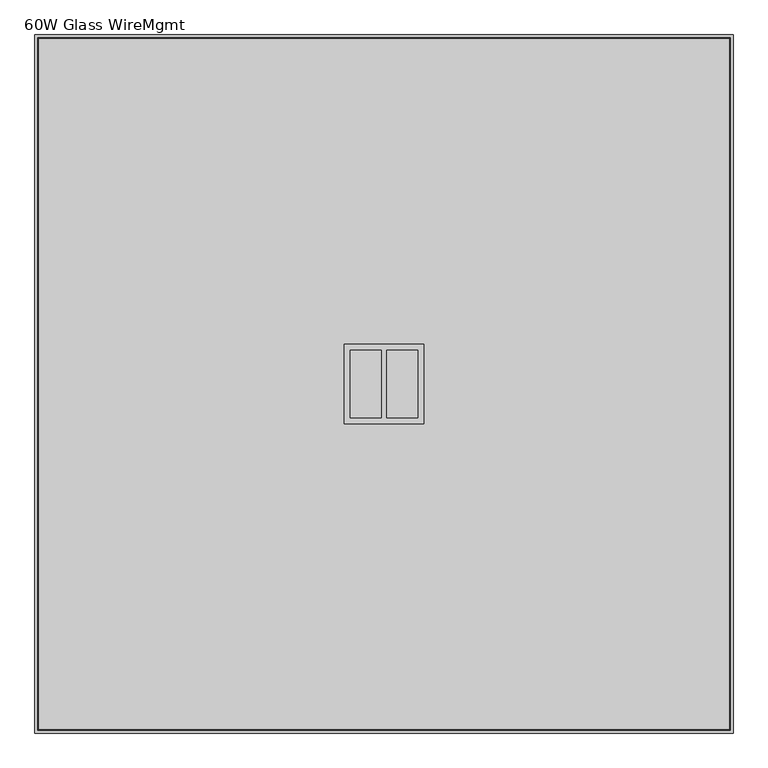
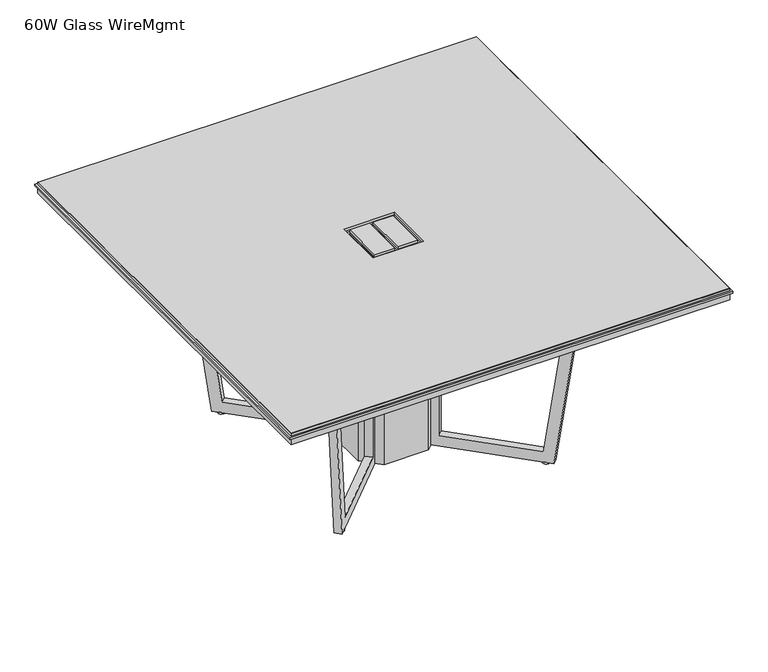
"""IFC4 building model written with IfcOpenShell, lengths in millimetres: furniture geometry, Knoll_Datesweiser_Tables_Meeting_Highline_Square : 60W Glass WireMgmt."""

from ifc_helpers import new_model, si_unit, point, frame, frame_2d, origin, origin_with_axes, place, context, project, spatial, polyline, circle_curve, trimmed, segment, composite_curve, outline, extrude, faceted_brep, source, transform, mapped, element, save


def furniture_60w_glass_wiremgmt_495b79e9(model_context):
    return source(origin(), model_context, "Body", "SolidModel", [
        extrude(outline(polyline([(762.0, 762.0), (762.0, -762.0), (-762.0, -762.0), (-762.0, 762.0), (762.0, 762.0)])), frame((0.0, 0.0, 698.5), z_axis=(0.0, 0.0, 1.0), x_axis=(1.0, 0.0, 0.0)), (0.0, 0.0, 1.0), 25.4),
        extrude(outline(polyline([(768.35, 768.35), (768.35, -768.35), (-768.35, -768.35), (-768.35, 768.35), (768.35, 768.35)]), holes=[polyline([(-87.3125, -87.3125), (87.3125, -87.3125), (87.3125, 87.3125), (-87.3125, 87.3125), (-87.3125, -87.3125)])]), frame((0.0, 0.0, 723.9), z_axis=(0.0, 0.0, 1.0), x_axis=(1.0, 0.0, 0.0)), (0.0, 0.0, 1.0), 6.35),
        extrude(outline(polyline([(6.35, -74.6125), (6.35, 74.6125), (74.6125, 74.6125), (74.6125, -74.6125), (6.35, -74.6125)])), frame((0.0, 0.0, 723.9), z_axis=(0.0, 0.0, 1.0), x_axis=(1.0, 0.0, 0.0)), (0.0, 0.0, 1.0), 6.35),
        extrude(outline(polyline([(-6.35, 74.6125), (-6.35, -74.6125), (-74.6125, -74.6125), (-74.6125, 74.6125), (-6.35, 74.6125)])), frame((0.0, 0.0, 723.9), z_axis=(0.0, 0.0, 1.0), x_axis=(1.0, 0.0, 0.0)), (0.0, 0.0, 1.0), 6.35),
        faceted_brep([(-762.0, 762.0, 738.759), (-762.0, 762.0, 731.266), (-762.0, -762.0, 731.266), (-762.0, -762.0, 738.759), (-760.984, -760.984, 739.775), (-760.984, 760.984, 739.775), (-760.984, 760.984, 730.25), (-760.984, -760.984, 730.25), (762.0, -762.0, 731.266), (762.0, -762.0, 738.759), (760.984, -760.984, 739.775), (760.984, -760.984, 730.25), (762.0, 762.0, 731.266), (762.0, 762.0, 738.759), (760.984, 760.984, 739.775), (760.984, 760.984, 730.25), (87.3125, -87.3125, 739.775), (-87.3125, -87.3125, 739.775), (-87.3125, 87.3125, 739.775), (87.3125, 87.3125, 739.775), (-87.3125, -87.3125, 730.25), (87.3125, -87.3125, 730.25), (87.3125, 87.3125, 730.25), (-87.3125, 87.3125, 730.25)], [[[0, 1, 2, 3]], [[0, 3, 4, 5]], [[2, 1, 6, 7]], [[3, 2, 8, 9]], [[4, 3, 9, 10]], [[2, 7, 11, 8]], [[9, 8, 12, 13]], [[10, 9, 13, 14]], [[8, 11, 15, 12]], [[1, 0, 13, 12]], [[0, 5, 14, 13]], [[6, 1, 12, 15]], [[5, 4, 10, 14], [16, 17, 18, 19]], [[7, 6, 15, 11], [20, 21, 22, 23]], [[16, 21, 20, 17]], [[17, 20, 23, 18]], [[18, 23, 22, 19]], [[21, 16, 19, 22]]]),
        faceted_brep([(6.35, 74.6125, 739.775), (6.35, -74.6125, 739.775), (74.6125, -74.6125, 739.775), (74.6125, 74.6125, 739.775), (6.35, -74.6125, 730.25), (6.35, 74.6125, 730.25), (74.6125, 74.6125, 730.25), (74.6125, -74.6125, 730.25)], [[[0, 1, 2, 3]], [[4, 5, 6, 7]], [[0, 5, 4, 1]], [[1, 4, 7, 2]], [[2, 7, 6, 3]], [[5, 0, 3, 6]]]),
        faceted_brep([(-6.35, -74.6125, 739.775), (-6.35, 74.6125, 739.775), (-74.6125, 74.6125, 739.775), (-74.6125, -74.6125, 739.775), (-6.35, 74.6125, 730.25), (-6.35, -74.6125, 730.25), (-74.6125, -74.6125, 730.25), (-74.6125, 74.6125, 730.25)], [[[0, 1, 2, 3]], [[4, 5, 6, 7]], [[0, 5, 4, 1]], [[1, 4, 7, 2]], [[2, 7, 6, 3]], [[5, 0, 3, 6]]]),
        extrude(outline(composite_curve([segment(trimmed(circle_curve(frame_2d((-357.9481367, -357.9481367)), 12.7), [point((-345.2481367, -357.9481367))], [point((-370.6481367, -357.9481367))], False, "CARTESIAN"), True, "CONTINUOUS"), segment(trimmed(circle_curve(frame_2d((-357.9481367, -357.9481367)), 12.7), [point((-370.6481367, -357.9481367))], [point((-345.2481367, -357.9481367))], False, "CARTESIAN"), True, "CONTINUOUS")], self_intersect=False)), origin_with_axes(), (0.0, 0.0, 1.0), 5.9867797),
        extrude(outline(composite_curve([segment(trimmed(circle_curve(frame_2d((-357.9481367, 357.9481367)), 12.7), [point((-345.2481367, 357.9481367))], [point((-370.6481367, 357.9481367))], False, "CARTESIAN"), True, "CONTINUOUS"), segment(trimmed(circle_curve(frame_2d((-357.9481367, 357.9481367)), 12.7), [point((-370.6481367, 357.9481367))], [point((-345.2481367, 357.9481367))], False, "CARTESIAN"), True, "CONTINUOUS")], self_intersect=False)), origin_with_axes(), (0.0, 0.0, 1.0), 5.9867797),
        extrude(outline(composite_curve([segment(trimmed(circle_curve(frame_2d((357.9481367, -357.9481367)), 12.7), [point((370.6481367, -357.9481367))], [point((345.2481367, -357.9481367))], False, "CARTESIAN"), True, "CONTINUOUS"), segment(trimmed(circle_curve(frame_2d((357.9481367, -357.9481367)), 12.7), [point((345.2481367, -357.9481367))], [point((370.6481367, -357.9481367))], False, "CARTESIAN"), True, "CONTINUOUS")], self_intersect=False)), origin_with_axes(), (0.0, 0.0, 1.0), 5.9867797),
        extrude(outline(composite_curve([segment(trimmed(circle_curve(frame_2d((357.9481367, 357.9481367)), 12.7), [point((370.6481367, 357.9481367))], [point((345.2481367, 357.9481367))], False, "CARTESIAN"), True, "CONTINUOUS"), segment(trimmed(circle_curve(frame_2d((357.9481367, 357.9481367)), 12.7), [point((345.2481367, 357.9481367))], [point((370.6481367, 357.9481367))], False, "CARTESIAN"), True, "CONTINUOUS")], self_intersect=False)), origin_with_axes(), (0.0, 0.0, 1.0), 5.9867797),
        faceted_brep([(-105.5180417, 87.5575295, 698.5000242), (-132.4542329, 114.4937206, 698.5000242), (-132.4542329, 114.4937206, 44.0867803), (-362.731756, 344.7712438, 44.0867803), (-427.7656237, 409.8051114, 698.5000242), (-454.9711667, 437.0106545, 698.5000242), (-386.1246404, 368.1641282, 5.7213276), (-115.3405838, 97.3800716, 6.2173274), (-115.3405838, 97.3800716, 679.2551774), (-105.5179146, 87.5574023, 679.2551774), (368.1641282, -386.1246404, 5.7213276), (437.0106545, -454.9711667, 698.5000242), (409.8051114, -427.7656237, 698.5000242), (344.7712438, -362.731756, 44.0867803), (114.4937206, -132.4542329, 44.0867803), (114.4937206, -132.4542329, 698.5000242), (87.5575295, -105.5180417, 698.5000242), (87.5574023, -105.5179146, 679.2551774), (97.3800716, -115.3405838, 679.2551774), (97.3800716, -115.3405838, 6.2173274), (-368.1641282, 386.1246404, 5.7213276), (-437.0106545, 454.9711667, 698.5000242), (-409.8051114, 427.7656237, 698.5000242), (-344.7712438, 362.731756, 44.0867803), (-114.4937206, 132.4542329, 44.0867803), (-114.4937206, 132.4542329, 698.5000242), (-87.5575295, 105.5180417, 698.5000242), (-87.5574023, 105.5179146, 679.2551774), (-97.3800759, 115.3405882, 679.2551774), (-97.3800759, 115.3405882, 6.2173274), (105.5180417, -87.5575295, 698.5000242), (132.4542329, -114.4937206, 698.5000242), (132.4542329, -114.4937206, 44.0867803), (362.731756, -344.7712438, 44.0867803), (427.7656237, -409.8051114, 698.5000242), (454.9711667, -437.0106545, 698.5000242), (386.1246404, -368.1641282, 5.7213276), (115.3405882, -97.3800759, 6.2173274), (115.3405882, -97.3800759, 679.2551774), (105.5179146, -87.5574023, 679.2551774), (-134.8689207, 77.8517251, 679.2551774), (-134.8689207, -77.8517528, 679.2551774), (-77.8517251, -134.8689207, 679.2551774), (77.8517251, -134.8689207, 679.2551774), (134.8689207, -77.8517528, 679.2551774), (134.8689207, 77.8517251, 679.2551774), (77.8517528, 134.8689207, 679.2551774), (-77.8517528, 134.8689207, 679.2551774), (-134.8689207, 77.8517251, 5.8810183), (-77.8517528, 134.8689207, 5.8810183), (77.8517528, 134.8689207, 5.8810183), (134.8689207, 77.8517251, 5.8810183), (134.8689207, -77.8517528, 5.8810183), (77.8517251, -134.8689207, 5.8810183), (-77.8517251, -134.8689207, 5.8810183), (-134.8689207, -77.8517528, 5.8810183)], [[[0, 1, 2, 3, 4, 5, 6, 7, 8, 9]], [[10, 11, 12, 13, 14, 15, 16, 17, 18, 19]], [[20, 21, 22, 23, 24, 25, 26, 27, 28, 29]], [[30, 31, 32, 33, 34, 35, 36, 37, 38, 39]], [[3, 2, 24, 23]], [[4, 3, 23, 22]], [[5, 4, 22, 21]], [[6, 5, 21, 20]], [[6, 20, 29, 7]], [[26, 0, 9, 27]], [[1, 0, 26, 25]], [[2, 1, 25, 24]], [[36, 10, 19, 37]], [[11, 10, 36, 35]], [[12, 11, 35, 34]], [[13, 12, 34, 33]], [[14, 13, 33, 32]], [[15, 14, 32, 31]], [[16, 15, 31, 30]], [[16, 30, 39, 17]], [[40, 41, 42, 43, 18, 17, 39, 38, 44, 45, 46, 47, 28, 27, 9, 8]], [[48, 49, 50, 51, 52, 53, 54, 55]], [[41, 40, 48, 55]], [[42, 41, 55, 54]], [[43, 42, 54, 53]], [[53, 52, 44, 38, 37, 19, 18, 43]], [[45, 44, 52, 51]], [[46, 45, 51, 50]], [[47, 46, 50, 49]], [[49, 48, 40, 8, 7, 29, 28, 47]]]),
        extrude(outline(polyline([(687.3294598, 0.0), (687.8397529, -396.8441293), (-4.9398532, -494.2013488), (-4.9394938, -455.7269008), (649.4746093, -363.7612365), (649.4776515, -38.0996402), (-4.9355924, -38.0935268), (-4.9352365, 0.0), (687.3294598, 0.0)])), frame((105.5180091, 87.5574969, 693.5647877), z_axis=(-0.7071067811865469, 0.7071067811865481, 0.0), x_axis=(-6.605612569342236e-06, -6.605612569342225e-06, -0.9999999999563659)), (0.0, 0.0, 1.0), 25.4),
        extrude(outline(polyline([(687.3320105, 273.0371574), (-4.9326857, 273.0500913), (-4.9323299, 311.1436182), (649.480914, 311.1375048), (649.4839562, 636.7991012), (-4.9284285, 728.7769922), (-4.928069, 767.2514401), (687.849718, 669.8812771), (687.3320105, 273.0371574)])), frame((105.5180091, 87.5574969, 693.5647877), z_axis=(-0.7071067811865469, 0.7071067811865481, 0.0), x_axis=(-6.605612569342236e-06, -6.605612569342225e-06, -0.9999999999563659)), (0.0, 0.0, 1.0), 25.4),
    ])


if __name__ == "__main__":
    model = new_model("IFC4")
    model_context = context("Model", 3, world=origin())
    ifc_project = project(units=[si_unit("LENGTHUNIT", "METRE", prefix="MILLI")], contexts=[model_context])
    site = spatial("IfcSite", under=ifc_project)
    building = spatial("IfcBuilding", under=site)
    placement = place(None, origin())
    furniture_60w_glass_wiremgmt_shape = furniture_60w_glass_wiremgmt_495b79e9(model_context)
    element("IfcFurniture", 1, ObjectType="Knoll_Datesweiser_Tables_Meeting_Highline_Square : 60W Glass WireMgmt", at=placement, inside=building, context=model_context, shape_type="MappedRepresentation", body=[
        mapped(furniture_60w_glass_wiremgmt_shape, transform((0.0, 0.0, 0.0), x_axis=(1.0, 0.0, 0.0), y_axis=(0.0, 1.0, 0.0), z_axis=(0.0, 0.0, 1.0))),
    ])
    save(model, "model.ifc")
